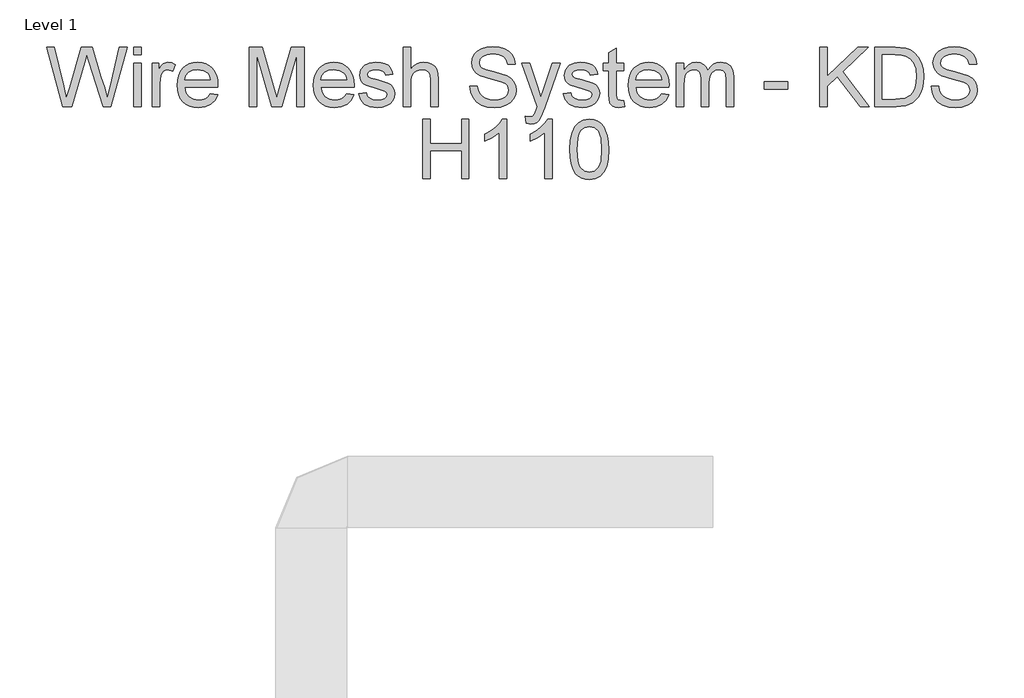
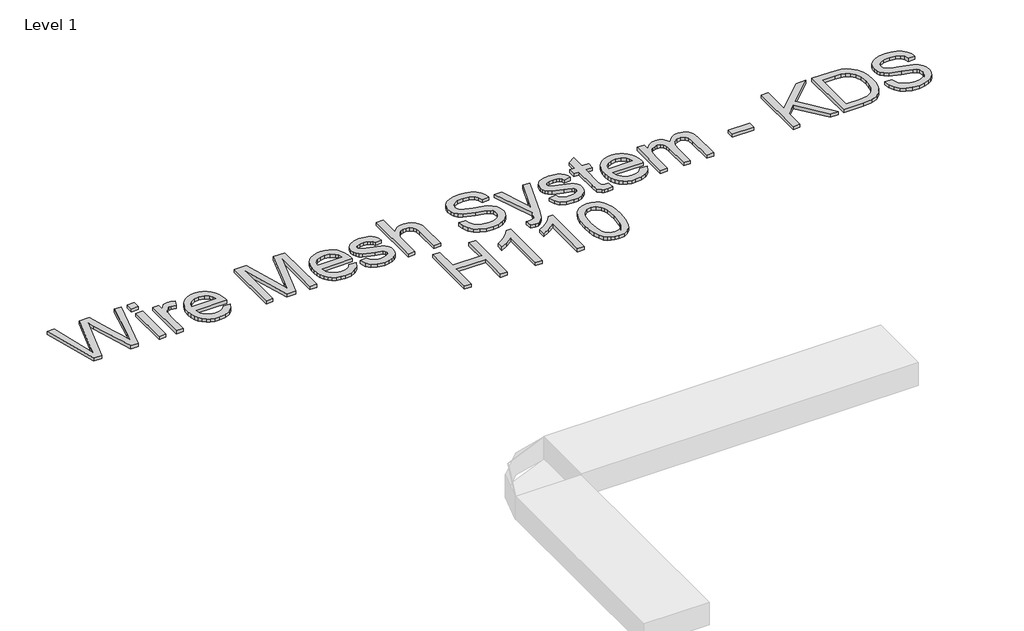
# One storey, part 20 of 32: 1 proxy.
"""IFC4 building model written with IfcOpenShell, lengths in millimetres."""

from ifc_helpers import new_model, si_unit, origin, origin_with_axes, place, context, project, spatial, polyline, outline, extrude, element, save

model = new_model("IFC4")

# Units and contexts
model_context = context("Model", 3, world=origin())
ifc_project = project(units=[si_unit("LENGTHUNIT", "METRE", prefix="MILLI")], contexts=[model_context])

# Site, building, storey
site = spatial("IfcSite", under=ifc_project)
building = spatial("IfcBuilding", under=site)
storey = spatial("IfcBuildingStorey", under=building, Name="Level 1", Elevation=0.0)

# Proxy
placement = place(None, origin())
element("IfcBuildingElementProxy", 1, Name="250mm Arial 3", ObjectType="250mm Arial 3", at=placement, inside=storey, context=model_context, shape_type="SweptSolid", body=[
    extrude(outline(polyline([(11216.2159742, 30303.1379564), (11147.7286094, 30554.2787318), (11180.102225, 30554.2787318), (11219.8334805, 30389.2223433), (11232.0962137, 30338.2706869), (11245.2173381, 30383.3362313), (11295.0040348, 30554.2787318), (11341.6637345, 30554.2787318), (11377.8387974, 30430.3638131), (11393.3358265, 30384.3785637), (11404.7554967, 30338.2706869), (11416.6503479, 30387.7508153), (11456.7494854, 30554.2787318), (11489.1231009, 30554.2787318), (11420.5744225, 30303.1379564), (11387.0358473, 30303.1379564), (11326.8258274, 30496.8891405), (11318.4258552, 30523.9284672), (11308.9835506, 30491.3709106), (11254.1078197, 30303.1379564), (11216.2159742, 30303.1379564)])), origin_with_axes(), (0.0, 0.0, 1.0), 15.0),
    extrude(outline(polyline([(11516.5916233, 30522.8861348), (11516.5916233, 30554.2787318), (11547.9842202, 30554.2787318), (11547.9842202, 30522.8861348), (11516.5916233, 30522.8861348)])), origin_with_axes(), (0.0, 0.0, 1.0), 15.0),
    extrude(outline(polyline([(11516.5916233, 30303.1379564), (11516.5916233, 30487.5694633), (11547.9842202, 30487.5694633), (11547.9842202, 30303.1379564), (11516.5916233, 30303.1379564)])), origin_with_axes(), (0.0, 0.0, 1.0), 15.0),
    extrude(outline(polyline([(11595.0731156, 30303.1379564), (11595.0731156, 30487.5694633), (11622.5416379, 30487.5694633), (11622.5416379, 30460.284882), (11632.6890496, 30476.1038078), (11642.0393836, 30485.423485), (11661.6597567, 30491.4935379), (11677.2947415, 30489.0716481), (11693.1749809, 30481.8059787), (11682.6903441, 30453.6630061), (11660.6174244, 30460.100941), (11651.2440977, 30458.5527709), (11642.8671181, 30453.9082608), (11631.5547467, 30436.7404343), (11626.4657125, 30400.0748621), (11626.4657125, 30303.1379564), (11595.0731156, 30303.1379564)])), origin_with_axes(), (0.0, 0.0, 1.0), 15.0),
    extrude(outline(polyline([(11841.9219343, 30358.075001), (11872.7013946, 30354.1509264), (11861.6112853, 30330.9590323), (11843.9146285, 30313.6225933), (11820.009963, 30302.8160597), (11790.2958277, 30299.2138818), (11770.8172424, 30300.7678), (11753.4616429, 30305.4295547), (11738.229029, 30313.1991458), (11725.1194009, 30324.0765733), (11714.5772824, 30337.759101), (11707.0471978, 30353.9439928), (11702.5291471, 30372.6312485), (11701.0231302, 30393.8208682), (11702.5444755, 30415.7290074), (11707.1085115, 30435.0389801), (11714.7152382, 30451.7507861), (11725.3646555, 30465.8644256), (11738.4397948, 30477.0771622), (11753.3236872, 30485.0862598), (11770.0163327, 30489.8917184), (11788.5177314, 30491.4935379), (11806.4232378, 30489.8955505), (11822.6157938, 30485.1015883), (11837.0953992, 30477.1116512), (11849.8620541, 30465.9257393), (11860.2834612, 30451.8427566), (11867.7273234, 30435.1616074), (11872.1936408, 30415.8822916), (11873.6824132, 30394.0048092), (11873.4984722, 30385.5435233), (11732.4157271, 30385.5435233), (11737.8496507, 30362.0450609), (11750.4726017, 30344.7699355), (11768.6904247, 30334.1473429), (11790.9089643, 30330.6064787), (11807.6169383, 30332.2466193), (11821.6884246, 30337.1670409), (11833.1234233, 30345.6743121), (11841.9219343, 30358.075001)]), holes=[polyline([(11732.4157271, 30416.9361202), (11842.2898163, 30416.9361202), (11838.043845, 30433.5214669), (11829.7205148, 30445.3856612), (11811.4183856, 30456.4221211), (11788.395104, 30460.100941), (11767.2342251, 30457.1655493), (11749.7368377, 30448.359374), (11737.5737392, 30434.632777), (11732.4157271, 30416.9361202)])]), origin_with_axes(), (0.0, 0.0, 1.0), 15.0),
    extrude(outline(polyline([(12007.1009502, 30303.1379564), (12007.1009502, 30554.2787318), (12061.1182898, 30554.2787318), (12112.4991418, 30377.2661784), (12122.8611513, 30340.2940379), (12134.0815522, 30380.3318617), (12184.6040128, 30554.2787318), (12238.6213525, 30554.2787318), (12238.6213525, 30303.1379564), (12207.2287555, 30303.1379564), (12207.2287555, 30522.8861348), (12144.1369934, 30303.1379564), (12101.5853093, 30303.1379564), (12038.4935471, 30522.8861348), (12038.4935471, 30303.1379564), (12007.1009502, 30303.1379564)])), origin_with_axes(), (0.0, 0.0, 1.0), 15.0),
    extrude(outline(polyline([(12418.7609028, 30358.075001), (12449.540363, 30354.1509264), (12438.4502537, 30330.9590323), (12420.7535969, 30313.6225933), (12396.8489314, 30302.8160597), (12367.1347961, 30299.2138818), (12347.6562109, 30300.7678), (12330.3006113, 30305.4295547), (12315.0679975, 30313.1991458), (12301.9583693, 30324.0765733), (12291.4162509, 30337.759101), (12283.8861663, 30353.9439928), (12279.3681155, 30372.6312485), (12277.8620986, 30393.8208682), (12279.3834439, 30415.7290074), (12283.9474799, 30435.0389801), (12291.5542066, 30451.7507861), (12302.203624, 30465.8644256), (12315.2787632, 30477.0771622), (12330.1626556, 30485.0862598), (12346.8553011, 30489.8917184), (12365.3566998, 30491.4935379), (12383.2622063, 30489.8955505), (12399.4547622, 30485.1015883), (12413.9343676, 30477.1116512), (12426.7010225, 30465.9257393), (12437.1224296, 30451.8427566), (12444.5662919, 30435.1616074), (12449.0326092, 30415.8822916), (12450.5213817, 30394.0048092), (12450.3374407, 30385.5435233), (12309.2546955, 30385.5435233), (12314.6886192, 30362.0450609), (12327.3115701, 30344.7699355), (12345.5293931, 30334.1473429), (12367.7479328, 30330.6064787), (12384.4559067, 30332.2466193), (12398.527393, 30337.1670409), (12409.9623917, 30345.6743121), (12418.7609028, 30358.075001)]), holes=[polyline([(12309.2546955, 30416.9361202), (12419.1287848, 30416.9361202), (12414.8828134, 30433.5214669), (12406.5594833, 30445.3856612), (12388.257354, 30456.4221211), (12365.2340725, 30460.100941), (12344.0731935, 30457.1655493), (12326.5758061, 30448.359374), (12314.4127077, 30434.632777), (12309.2546955, 30416.9361202)])]), origin_with_axes(), (0.0, 0.0, 1.0), 15.0),
    extrude(outline(polyline([(12470.1417548, 30358.075001), (12501.5343517, 30361.9990756), (12506.4854302, 30348.5713828), (12516.0656905, 30338.6998826), (12530.3364462, 30332.6298297), (12549.359011, 30330.6064787), (12568.1516496, 30332.4612171), (12581.3647446, 30338.0254323), (12589.182237, 30346.0881793), (12591.7880678, 30355.4385134), (12589.1669086, 30363.4399468), (12581.303431, 30369.5406565), (12548.9911291, 30378.4924517), (12501.7182927, 30393.851525), (12489.7544636, 30401.5693827), (12481.0862441, 30411.7857723), (12475.8209331, 30423.8492361), (12474.0658294, 30437.1083163), (12479.7066866, 30460.4994798), (12495.0964168, 30478.3724134), (12515.054015, 30487.6614338), (12542.0626848, 30491.4935379), (12562.495464, 30489.9530321), (12580.2610986, 30485.3315145), (12594.5471828, 30478.0811735), (12604.5413103, 30468.6541974), (12611.1631862, 30456.3531432), (12615.3325155, 30440.4805679), (12583.9399186, 30436.5564933), (12579.9775229, 30446.4356577), (12572.1370379, 30453.8776039), (12560.3418214, 30458.5451067), (12544.5152314, 30460.100941), (12526.4890137, 30458.6140846), (12514.4715352, 30454.1535154), (12507.7117035, 30447.7155805), (12505.4584263, 30440.2966269), (12509.1985599, 30431.1608907), (12520.9094701, 30424.2324465), (12547.9487967, 30417.5492569), (12594.0260166, 30402.7726634), (12606.1967793, 30395.7062634), (12615.424486, 30386.0340326), (12621.2416201, 30373.7253142), (12623.1806647, 30358.7494513), (12620.9043949, 30343.2677507), (12614.0755854, 30328.7057551), (12602.9548192, 30316.2054314), (12587.8026795, 30306.9087468), (12569.5005503, 30301.137598), (12548.9298154, 30299.2138818), (12517.2766354, 30302.9233586), (12494.1767118, 30314.0517889), (12478.7563248, 30332.4765455), (12470.1417548, 30358.075001)])), origin_with_axes(), (0.0, 0.0, 1.0), 15.0),
    extrude(outline(polyline([(12658.4973363, 30303.1379564), (12658.4973363, 30554.2787318), (12689.8899332, 30554.2787318), (12689.8899332, 30461.940351), (12701.4207345, 30474.8698703), (12714.3694143, 30484.1052412), (12728.7359726, 30489.6464637), (12744.5204095, 30491.4935379), (12763.4816607, 30489.4778512), (12779.7757674, 30483.4307909), (12792.6056519, 30473.8275379), (12801.1742367, 30461.1432733), (12806.0026879, 30443.7148638), (12807.6121717, 30419.8791762), (12807.6121717, 30303.1379564), (12776.2195747, 30303.1379564), (12776.2195747, 30416.6295519), (12773.7210429, 30436.2805818), (12766.2254472, 30449.7389315), (12754.146655, 30457.5104386), (12737.8985336, 30460.100941), (12724.6317891, 30458.3535015), (12712.1774507, 30453.1111831), (12701.8614265, 30444.8798235), (12695.0096243, 30434.1652603), (12691.169856, 30419.9251614), (12689.8899332, 30401.1171944), (12689.8899332, 30303.1379564), (12658.4973363, 30303.1379564)])), origin_with_axes(), (0.0, 0.0, 1.0), 15.0),
    extrude(outline(polyline([(12941.0307086, 30389.4675979), (12972.4233055, 30389.4675979), (12976.0254834, 30372.0468526), (12982.5400604, 30358.0443442), (12992.7028005, 30346.9312422), (13007.2494677, 30338.1787164), (13025.0304308, 30332.4995381), (13044.8960586, 30330.6064787), (13062.3857817, 30332.0396856), (13077.6988698, 30336.3393065), (13090.1072229, 30343.1451234), (13098.8827413, 30352.0969186), (13104.1020672, 30362.3746218), (13105.8418424, 30373.1581628), (13100.6301808, 30392.7478791), (13092.6900611, 30400.4963936), (13079.2930251, 30407.0033064), (13033.5836872, 30418.990128), (12984.3794703, 30434.4718287), (12968.7521498, 30445.0331076), (12957.6773689, 30457.8323354), (12951.0784856, 30472.5936004), (12948.8788578, 30489.0409913), (12951.5996517, 30507.4274268), (12959.7620335, 30524.5722607), (12973.1514053, 30539.1035995), (12991.5531693, 30549.64955), (13013.6414174, 30556.0644923), (13038.0902416, 30558.2028064), (13064.5777453, 30555.9648576), (13087.754311, 30549.2510112), (13106.7922042, 30538.1992229), (13120.8636906, 30522.9474485), (13129.7695005, 30504.4460498), (13133.3103647, 30483.6453887), (13101.9177678, 30483.6453887), (13096.1542832, 30502.3767136), (13084.1368047, 30515.8963769), (13065.3594945, 30524.0817513), (13039.316515, 30526.8102095), (13012.6603987, 30524.1124082), (12994.3735979, 30516.0190043), (12983.7969905, 30504.1088247), (12980.2714547, 30489.9606963), (12982.7699866, 30477.8972325), (12990.2655823, 30468.1943449), (13007.9852317, 30459.5184612), (13041.5238069, 30450.6586365), (13097.0739882, 30434.9010243), (13114.9699144, 30423.5120109), (13127.4549096, 30409.455853), (13134.7895569, 30392.8858348), (13137.2344393, 30373.9552405), (13134.4216749, 30354.6031147), (13125.9833817, 30336.4006201), (13112.2644489, 30320.7349785), (13093.6097661, 30308.9934115), (13071.1766286, 30301.6587642), (13046.1223319, 30299.2138818), (13015.3658642, 30301.8503694), (12990.0509844, 30309.7598323), (12969.8864526, 30322.9729273), (12954.5810287, 30341.5203112), (12944.7555138, 30364.1143971), (12941.0307086, 30389.4675979)])), origin_with_axes(), (0.0, 0.0, 1.0), 15.0),
    extrude(outline(polyline([(13180.3992601, 30232.5046133), (13176.4751855, 30262.7322506), (13192.4167386, 30259.9731356), (13207.3159594, 30263.4373577), (13216.4516956, 30273.0942601), (13225.0356089, 30296.2095122), (13227.4881555, 30303.8124067), (13160.778887, 30487.5694633), (13193.8882666, 30487.5694633), (13229.2662518, 30385.1756413), (13241.5902986, 30344.2181125), (13253.9143455, 30380.3931754), (13290.2733493, 30487.5694633), (13323.1374742, 30487.5694633), (13258.9420661, 30298.7233725), (13242.264749, 30257.7658437), (13233.726821, 30244.6907044), (13224.0545902, 30235.6316103), (13212.8188609, 30230.3433066), (13199.5904375, 30228.5805387), (13180.3992601, 30232.5046133)])), origin_with_axes(), (0.0, 0.0, 1.0), 15.0),
    extrude(outline(polyline([(13337.3622447, 30358.075001), (13368.7548416, 30361.9990756), (13373.7059202, 30348.5713828), (13383.2861804, 30338.6998826), (13397.5569362, 30332.6298297), (13416.579501, 30330.6064787), (13435.3721396, 30332.4612171), (13448.5852346, 30338.0254323), (13456.402727, 30346.0881793), (13459.0085578, 30355.4385134), (13456.3873986, 30363.4399468), (13448.5239209, 30369.5406565), (13416.211619, 30378.4924517), (13368.9387826, 30393.851525), (13356.9749536, 30401.5693827), (13348.3067341, 30411.7857723), (13343.041423, 30423.8492361), (13341.2863193, 30437.1083163), (13346.9271766, 30460.4994798), (13362.3169067, 30478.3724134), (13382.274505, 30487.6614338), (13409.2831748, 30491.4935379), (13429.7159539, 30489.9530321), (13447.4815886, 30485.3315145), (13461.7676728, 30478.0811735), (13471.7618003, 30468.6541974), (13478.3836762, 30456.3531432), (13482.5530055, 30440.4805679), (13451.1604086, 30436.5564933), (13447.1980129, 30446.4356577), (13439.3575279, 30453.8776039), (13427.5623114, 30458.5451067), (13411.7357214, 30460.100941), (13393.7095036, 30458.6140846), (13381.6920251, 30454.1535154), (13374.9321935, 30447.7155805), (13372.6789163, 30440.2966269), (13376.4190499, 30431.1608907), (13388.1299601, 30424.2324465), (13415.1692867, 30417.5492569), (13461.2465066, 30402.7726634), (13473.4172693, 30395.7062634), (13482.644976, 30386.0340326), (13488.46211, 30373.7253142), (13490.4011547, 30358.7494513), (13488.1248849, 30343.2677507), (13481.2960753, 30328.7057551), (13470.1753092, 30316.2054314), (13455.0231695, 30306.9087468), (13436.7210402, 30301.137598), (13416.1503054, 30299.2138818), (13384.4971253, 30302.9233586), (13361.3972017, 30314.0517889), (13345.9768148, 30332.4765455), (13337.3622447, 30358.075001)])), origin_with_axes(), (0.0, 0.0, 1.0), 15.0),
    extrude(outline(polyline([(13592.4270947, 30329.3188917), (13596.3511693, 30302.2182514), (13572.8680353, 30299.2138818), (13557.8002019, 30300.5167972), (13546.5644726, 30304.4255434), (13533.4433481, 30318.0984909), (13529.6419009, 30353.7217307), (13529.6419009, 30456.1768664), (13506.0974532, 30456.1768664), (13506.0974532, 30487.5694633), (13529.6419009, 30487.5694633), (13529.6419009, 30532.3897531), (13561.0344978, 30550.8451665), (13561.0344978, 30487.5694633), (13592.4270947, 30487.5694633), (13592.4270947, 30456.1768664), (13561.0344978, 30456.1768664), (13561.0344978, 30354.6414357), (13562.6899668, 30338.4546279), (13568.0549125, 30332.7218002), (13578.7541472, 30330.6064787), (13592.4270947, 30329.3188917)])), origin_with_axes(), (0.0, 0.0, 1.0), 15.0),
    extrude(outline(polyline([(13752.9462719, 30358.075001), (13783.7257322, 30354.1509264), (13772.6356229, 30330.9590323), (13754.9389661, 30313.6225933), (13731.0343006, 30302.8160597), (13701.3201653, 30299.2138818), (13681.8415801, 30300.7678), (13664.4859805, 30305.4295547), (13649.2533666, 30313.1991458), (13636.1437385, 30324.0765733), (13625.60162, 30337.759101), (13618.0715355, 30353.9439928), (13613.5534847, 30372.6312485), (13612.0474678, 30393.8208682), (13613.5688131, 30415.7290074), (13618.1328491, 30435.0389801), (13625.7395758, 30451.7507861), (13636.3889931, 30465.8644256), (13649.4641324, 30477.0771622), (13664.3480248, 30485.0862598), (13681.0406703, 30489.8917184), (13699.542069, 30491.4935379), (13717.4475755, 30489.8955505), (13733.6401314, 30485.1015883), (13748.1197368, 30477.1116512), (13760.8863917, 30465.9257393), (13771.3077988, 30451.8427566), (13778.7516611, 30435.1616074), (13783.2179784, 30415.8822916), (13784.7067509, 30394.0048092), (13784.5228099, 30385.5435233), (13643.4400647, 30385.5435233), (13648.8739883, 30362.0450609), (13661.4969393, 30344.7699355), (13679.7147623, 30334.1473429), (13701.9333019, 30330.6064787), (13718.6412759, 30332.2466193), (13732.7127622, 30337.1670409), (13744.1477609, 30345.6743121), (13752.9462719, 30358.075001)]), holes=[polyline([(13643.4400647, 30416.9361202), (13753.3141539, 30416.9361202), (13749.0681826, 30433.5214669), (13740.7448524, 30445.3856612), (13722.4427232, 30456.4221211), (13699.4194416, 30460.100941), (13678.2585627, 30457.1655493), (13660.7611753, 30448.359374), (13648.5980768, 30434.632777), (13643.4400647, 30416.9361202)])]), origin_with_axes(), (0.0, 0.0, 1.0), 15.0),
    extrude(outline(polyline([(13816.0993478, 30303.1379564), (13816.0993478, 30487.5694633), (13847.4919447, 30487.5694633), (13847.4919447, 30457.2191987), (13856.9342492, 30471.1603935), (13869.0743551, 30482.0818902), (13883.498395, 30489.140626), (13899.7925017, 30491.4935379), (13917.251568, 30489.0946407), (13931.2464123, 30481.8979492), (13941.7003923, 30470.3786442), (13948.536866, 30455.0119067), (13959.9795289, 30470.9726204), (13973.0316756, 30482.3731301), (13987.6933059, 30489.213436), (14003.96442, 30491.4935379), (14027.5625171, 30487.6997549), (14045.0139193, 30476.3184056), (14055.7974603, 30457.0429219), (14059.3919739, 30429.5667354), (14059.3919739, 30303.1379564), (14027.999377, 30303.1379564), (14027.999377, 30416.0777289), (14025.0869779, 30442.2893211), (14014.5410273, 30455.1958477), (13996.6067801, 30460.100941), (13979.599902, 30456.9586156), (13965.7353493, 30447.5316395), (13956.5153068, 30431.1762191), (13953.4419593, 30407.248561), (13953.4419593, 30303.1379564), (13922.0493624, 30303.1379564), (13922.0493624, 30419.5726079), (13920.232945, 30437.3229141), (13914.783693, 30449.9841861), (13905.1957685, 30457.5717523), (13890.9633338, 30460.100941), (13878.8692132, 30458.4148152), (13867.7254544, 30453.3564378), (13858.5284046, 30445.048436), (13852.2744106, 30433.6134374), (13847.4919447, 30396.1507875), (13847.4919447, 30303.1379564), (13816.0993478, 30303.1379564)])), origin_with_axes(), (0.0, 0.0, 1.0), 15.0),
    extrude(outline(polyline([(14188.8864362, 30377.6953741), (14188.8864362, 30409.087971), (14286.9883016, 30409.087971), (14286.9883016, 30377.6953741), (14188.8864362, 30377.6953741)])), origin_with_axes(), (0.0, 0.0, 1.0), 15.0),
    extrude(outline(polyline([(14424.3309131, 30303.1379564), (14424.3309131, 30554.2787318), (14455.7235101, 30554.2787318), (14455.7235101, 30431.3448317), (14584.4822084, 30554.2787318), (14628.3827931, 30554.2787318), (14520.2868002, 30451.0265185), (14632.3068677, 30303.1379564), (14593.9245129, 30303.1379564), (14498.0299395, 30429.8119901), (14455.7235101, 30389.4675979), (14455.7235101, 30303.1379564), (14424.3309131, 30303.1379564)])), origin_with_axes(), (0.0, 0.0, 1.0), 15.0),
    extrude(outline(polyline([(14655.8513154, 30303.1379564), (14655.8513154, 30554.2787318), (14742.4875253, 30554.2787318), (14787.307815, 30550.6612255), (14807.3267269, 30543.686796), (14824.2186419, 30532.6963214), (14841.5857377, 30513.5664576), (14853.9557698, 30489.7767553), (14861.359395, 30461.7870668), (14863.82727, 30430.0572447), (14862.1564726, 30403.1022244), (14857.1440805, 30379.3814999), (14849.5105291, 30359.1863112), (14839.976254, 30342.8078982), (14817.044943, 30320.0298713), (14787.0319035, 30307.429913), (14746.6568546, 30303.1379564), (14655.8513154, 30303.1379564)]), holes=[polyline([(14687.2439124, 30334.5305533), (14742.7940936, 30334.5305533), (14783.1997994, 30339.0677646), (14806.4989925, 30351.8823208), (14817.4051608, 30365.470962), (14825.5981994, 30383.0603198), (14830.7255547, 30404.7270365), (14832.4346731, 30430.5477541), (14829.0854141, 30464.7607796), (14819.0376371, 30490.0220099), (14804.1920658, 30507.3737774), (14786.4494237, 30517.8584142), (14768.3925491, 30521.6292047), (14741.9357023, 30522.8861348), (14687.2439124, 30522.8861348), (14687.2439124, 30334.5305533)])]), origin_with_axes(), (0.0, 0.0, 1.0), 15.0),
    extrude(outline(polyline([(14895.219867, 30389.4675979), (14926.6124639, 30389.4675979), (14930.2146418, 30372.0468526), (14936.7292187, 30358.0443442), (14946.8919589, 30346.9312422), (14961.4386261, 30338.1787164), (14979.2195892, 30332.4995381), (14999.0852169, 30330.6064787), (15016.5749401, 30332.0396856), (15031.8880282, 30336.3393065), (15044.2963813, 30343.1451234), (15053.0718997, 30352.0969186), (15058.2912255, 30362.3746218), (15060.0310008, 30373.1581628), (15054.8193392, 30392.7478791), (15046.8792195, 30400.4963936), (15033.4821835, 30407.0033064), (14987.7728456, 30418.990128), (14938.5686287, 30434.4718287), (14922.9413081, 30445.0331076), (14911.8665272, 30457.8323354), (14905.267644, 30472.5936004), (14903.0680162, 30489.0409913), (14905.7888101, 30507.4274268), (14913.9511919, 30524.5722607), (14927.3405637, 30539.1035995), (14945.7423276, 30549.64955), (14967.8305758, 30556.0644923), (14992.2794, 30558.2028064), (15018.7669037, 30555.9648576), (15041.9434694, 30549.2510112), (15060.9813626, 30538.1992229), (15075.0528489, 30522.9474485), (15083.9586589, 30504.4460498), (15087.4995231, 30483.6453887), (15056.1069262, 30483.6453887), (15050.3434416, 30502.3767136), (15038.3259631, 30515.8963769), (15019.5486529, 30524.0817513), (14993.5056733, 30526.8102095), (14966.8495571, 30524.1124082), (14948.5627563, 30516.0190043), (14937.9861489, 30504.1088247), (14934.4606131, 30489.9606963), (14936.959145, 30477.8972325), (14944.4547406, 30468.1943449), (14962.1743901, 30459.5184612), (14995.7129653, 30450.6586365), (15051.2631466, 30434.9010243), (15069.1590728, 30423.5120109), (15081.644068, 30409.455853), (15088.9787153, 30392.8858348), (15091.4235977, 30373.9552405), (15088.6108333, 30354.6031147), (15080.17254, 30336.4006201), (15066.4536073, 30320.7349785), (15047.7989245, 30308.9934115), (15025.365787, 30301.6587642), (15000.3114902, 30299.2138818), (14969.5550226, 30301.8503694), (14944.2401428, 30309.7598323), (14924.075611, 30322.9729273), (14908.7701871, 30341.5203112), (14898.9446722, 30364.1143971), (14895.219867, 30389.4675979)])), origin_with_axes(), (0.0, 0.0, 1.0), 15.0),
    extrude(outline(polyline([(12740.9029032, 29998.2009118), (12740.9029032, 30249.3416872), (12772.2955001, 30249.3416872), (12772.2955001, 30147.3157472), (12905.714037, 30147.3157472), (12905.714037, 30249.3416872), (12937.106634, 30249.3416872), (12937.106634, 29998.2009118), (12905.714037, 29998.2009118), (12905.714037, 30115.9231502), (12772.2955001, 30115.9231502), (12772.2955001, 29998.2009118), (12740.9029032, 29998.2009118)])), origin_with_axes(), (0.0, 0.0, 1.0), 15.0),
    extrude(outline(polyline([(13097.9936932, 29998.2009118), (13066.6010963, 29998.2009118), (13066.6010963, 30193.9141332), (13036.8639683, 30172.7302617), (13003.8159024, 30156.880679), (13003.8159024, 30186.5564933), (13028.4716603, 30199.9688577), (13049.8318087, 30215.9257393), (13066.6700741, 30232.8942963), (13077.7601835, 30249.3416872), (13097.9936932, 30249.3416872), (13097.9936932, 29998.2009118)])), origin_with_axes(), (0.0, 0.0, 1.0), 15.0),
    extrude(outline(polyline([(13290.2733493, 29998.2009118), (13258.8807524, 29998.2009118), (13258.8807524, 30193.9141332), (13229.1436245, 30172.7302617), (13196.0955586, 30156.880679), (13196.0955586, 30186.5564933), (13220.7513165, 30199.9688577), (13242.1114648, 30215.9257393), (13258.9497303, 30232.8942963), (13270.0398396, 30249.3416872), (13290.2733493, 30249.3416872), (13290.2733493, 29998.2009118)])), origin_with_axes(), (0.0, 0.0, 1.0), 15.0),
    extrude(outline(polyline([(13364.830767, 30121.7479485), (13367.1376937, 30161.9467207), (13374.0584737, 30194.0061037), (13385.5241293, 30218.4166069), (13401.4656824, 30235.6687397), (13421.9980962, 30245.9234503), (13447.2363339, 30249.3416872), (13466.5807955, 30247.3183362), (13483.9019061, 30241.2482833), (13498.3872597, 30231.3691189), (13509.2244501, 30217.9184334), (13523.9397299, 30180.7623519), (13528.2163581, 30155.0489333), (13529.6419009, 30121.7479485), (13527.3579668, 30081.7791026), (13520.5061647, 30049.7963616), (13509.109487, 30025.3628658), (13493.1909265, 30008.0417552), (13472.6125274, 29997.7180667), (13447.2363339, 29994.2768372), (13429.9458802, 29995.7713578), (13414.6174637, 30000.2549196), (13401.2510845, 30007.7275226), (13389.8467427, 30018.1891669), (13378.9022533, 30037.1006007), (13371.0847609, 30060.6642089), (13366.3942655, 30088.8799915), (13364.830767, 30121.7479485)]), holes=[polyline([(13396.2233639, 30121.8092622), (13399.9021839, 30072.4287685), (13404.5007088, 30055.5387696), (13410.9386438, 30043.848936), (13427.3707062, 30030.2143096), (13447.2363339, 30025.6694341), (13467.1019617, 30030.229638), (13483.5340241, 30043.9102497), (13489.9719591, 30055.6192438), (13494.570484, 30072.5054106), (13498.2493039, 30121.8092622), (13494.6931113, 30170.0784456), (13490.2478705, 30186.912879), (13484.0245335, 30198.8805402), (13467.6231278, 30213.1819527), (13446.8684519, 30217.9490902), (13427.217422, 30213.7491041), (13411.4291531, 30201.1491458), (13404.7766203, 30188.1199918), (13400.0248112, 30170.5536265), (13396.2233639, 30121.8092622)])]), origin_with_axes(), (0.0, 0.0, 1.0), 15.0),
])

save(model, "model.ifc")
